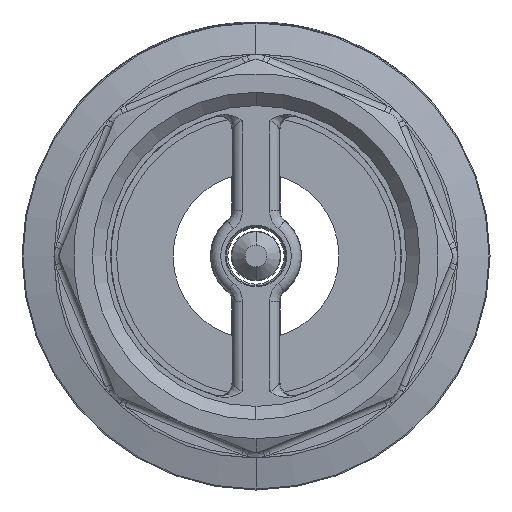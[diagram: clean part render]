
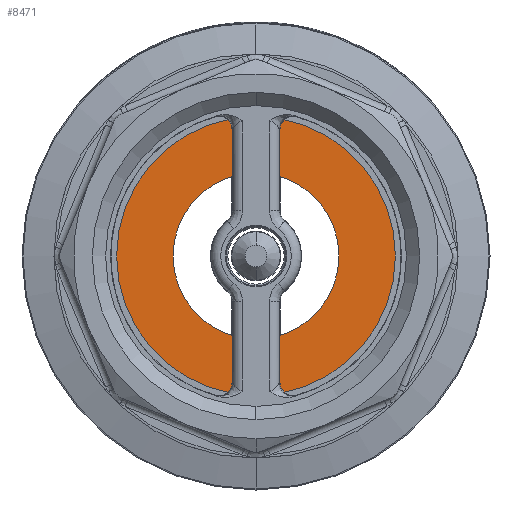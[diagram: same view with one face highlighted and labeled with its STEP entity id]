
A CAD part, front view. The second image highlights one B-rep face of the part: STEP entity #8471.
In plain terms, the highlighted planar face has unit normal (0, -1, 0).
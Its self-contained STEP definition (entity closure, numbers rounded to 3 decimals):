
#808 = CARTESIAN_POINT ( 'NONE',  ( 0., -51.483, 12.5 ) ) ;
#1624 = ORIENTED_EDGE ( 'NONE', *, *, #6077, .F. ) ;
#2513 = EDGE_CURVE ( 'NONE', #12457, #13309, #8319, .T. ) ;
#2926 = CIRCLE ( 'NONE', #11416, 21. ) ;
#3061 = ORIENTED_EDGE ( 'NONE', *, *, #2513, .F. ) ;
#3281 = DIRECTION ( 'NONE',  ( 0., -1., 0. ) ) ;
#4399 = CARTESIAN_POINT ( 'NONE',  ( 0., -51.483, 21. ) ) ;
#4783 = CARTESIAN_POINT ( 'NONE',  ( 0., -51.483, -12.5 ) ) ;
#5007 = CARTESIAN_POINT ( 'NONE',  ( 0., -51.483, 0. ) ) ;
#5166 = CARTESIAN_POINT ( 'NONE',  ( 12.5, -51.483, 0. ) ) ;
#5565 = CARTESIAN_POINT ( 'NONE',  ( 0., -51.483, 0. ) ) ;
#5660 = AXIS2_PLACEMENT_3D ( 'NONE', #5166, #16206, #7947 ) ;
#6016 = AXIS2_PLACEMENT_3D ( 'NONE', #11567, #3281, #12952 ) ;
#6077 = EDGE_CURVE ( 'NONE', #13309, #12457, #13533, .T. ) ;
#6313 = CIRCLE ( 'NONE', #10191, 21. ) ;
#6400 = DIRECTION ( 'NONE',  ( 0., 0., -1. ) ) ;
#6912 = DIRECTION ( 'NONE',  ( 0., 0., -1. ) ) ;
#7022 = EDGE_CURVE ( 'NONE', #9596, #17148, #2926, .T. ) ;
#7096 = EDGE_LOOP ( 'NONE', ( #3061, #1624 ) ) ;
#7690 = CARTESIAN_POINT ( 'NONE',  ( 0., -51.483, 0. ) ) ;
#7890 = PLANE ( 'NONE',  #5660 ) ;
#7947 = DIRECTION ( 'NONE',  ( 0., 0., -1. ) ) ;
#8319 = CIRCLE ( 'NONE', #6016, 12.5 ) ;
#8471 = ADVANCED_FACE ( 'NONE', ( #11335, #10452 ), #7890, .T. ) ;
#8708 = AXIS2_PLACEMENT_3D ( 'NONE', #5007, #14670, #6400 ) ;
#9058 = DIRECTION ( 'NONE',  ( 0., 0., -1. ) ) ;
#9596 = VERTEX_POINT ( 'NONE', #4399 ) ;
#10191 = AXIS2_PLACEMENT_3D ( 'NONE', #5565, #15208, #6912 ) ;
#10452 = FACE_BOUND ( 'NONE', #7096, .T. ) ;
#11335 = FACE_OUTER_BOUND ( 'NONE', #12867, .T. ) ;
#11416 = AXIS2_PLACEMENT_3D ( 'NONE', #7690, #17334, #9058 ) ;
#11567 = CARTESIAN_POINT ( 'NONE',  ( 0., -51.483, 0. ) ) ;
#12457 = VERTEX_POINT ( 'NONE', #4783 ) ;
#12867 = EDGE_LOOP ( 'NONE', ( #17575, #13946 ) ) ;
#12952 = DIRECTION ( 'NONE',  ( 0., 0., -1. ) ) ;
#13051 = EDGE_CURVE ( 'NONE', #17148, #9596, #6313, .T. ) ;
#13309 = VERTEX_POINT ( 'NONE', #808 ) ;
#13533 = CIRCLE ( 'NONE', #8708, 12.5 ) ;
#13946 = ORIENTED_EDGE ( 'NONE', *, *, #7022, .T. ) ;
#14372 = CARTESIAN_POINT ( 'NONE',  ( 0., -51.483, -21. ) ) ;
#14670 = DIRECTION ( 'NONE',  ( 0., -1., 0. ) ) ;
#15208 = DIRECTION ( 'NONE',  ( 0., -1., 0. ) ) ;
#16206 = DIRECTION ( 'NONE',  ( 0., -1., 0. ) ) ;
#17148 = VERTEX_POINT ( 'NONE', #14372 ) ;
#17334 = DIRECTION ( 'NONE',  ( 0., -1., 0. ) ) ;
#17575 = ORIENTED_EDGE ( 'NONE', *, *, #13051, .T. ) ;
